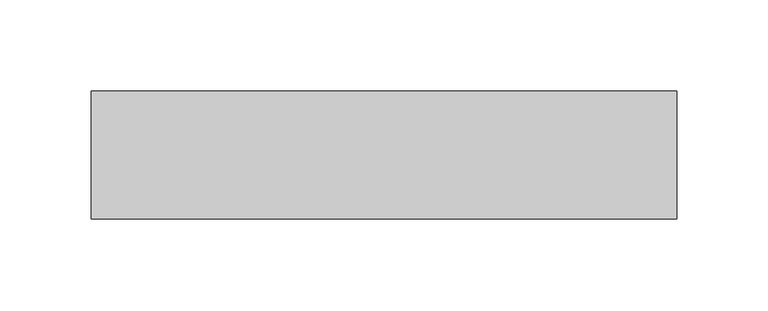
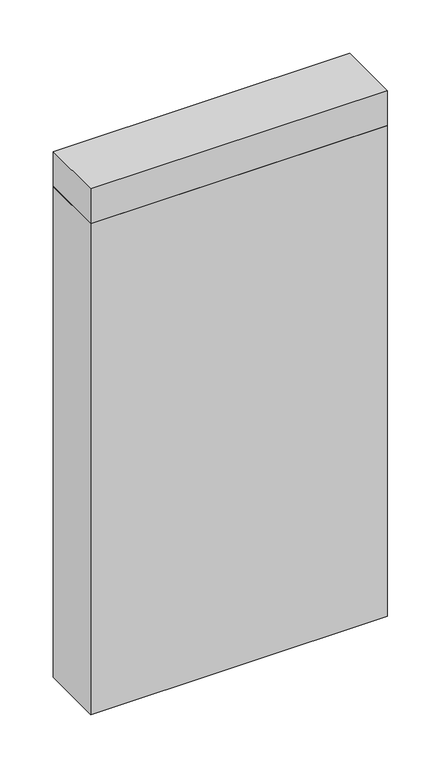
"""IFC4 building model written with IfcOpenShell, lengths in millimetres: plate geometry, 営_パーティションパネル_上部 : パーティションパネル_上部."""

from ifc_helpers import new_model, si_unit, frame, origin, origin_with_axes, place, context, project, spatial, polyline, outline, extrude, source, transform, mapped, element, save


def plate_5b77f55f(model_context):
    return source(origin(), model_context, "Body", "SweptSolid", [
        extrude(outline(polyline([(-160.0, -35.0), (-160.0, 35.0), (160.0, 35.0), (160.0, -35.0), (-160.0, -35.0)])), origin_with_axes(), (0.0, 0.0, 1.0), 560.0),
        extrude(outline(polyline([(-160.0, -35.0), (-160.0, 35.0), (160.0, 35.0), (160.0, -35.0), (-160.0, -35.0)])), frame((0.0, 0.0, 560.0), z_axis=(0.0, 0.0, 1.0), x_axis=(1.0, 0.0, 0.0)), (0.0, 0.0, 1.0), 40.0),
    ])


if __name__ == "__main__":
    model = new_model("IFC4")
    model_context = context("Model", 3, world=origin())
    ifc_project = project(units=[si_unit("LENGTHUNIT", "METRE", prefix="MILLI")], contexts=[model_context])
    site = spatial("IfcSite", under=ifc_project)
    building = spatial("IfcBuilding", under=site)
    placement = place(None, origin())
    plate_shape = plate_5b77f55f(model_context)
    element("IfcPlate", 1, ObjectType="営_パーティションパネル_上部 : パーティションパネル_上部", at=placement, inside=building, context=model_context, shape_type="MappedRepresentation", body=[
        mapped(plate_shape, transform((0.0, 0.0, 0.0), x_axis=(1.0, 0.0, 0.0), y_axis=(0.0, 1.0, 0.0), z_axis=(0.0, 0.0, 1.0))),
    ])
    save(model, "model.ifc")
